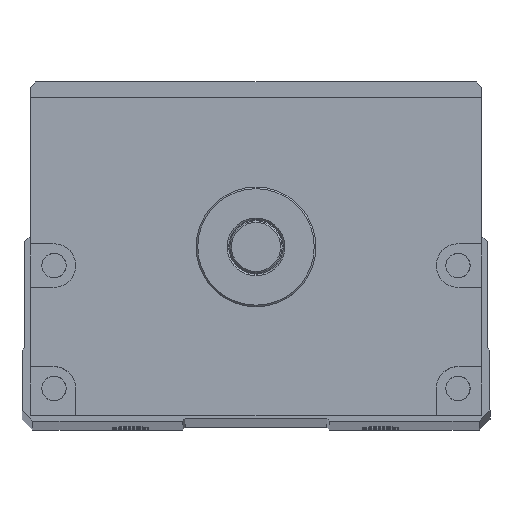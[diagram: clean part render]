
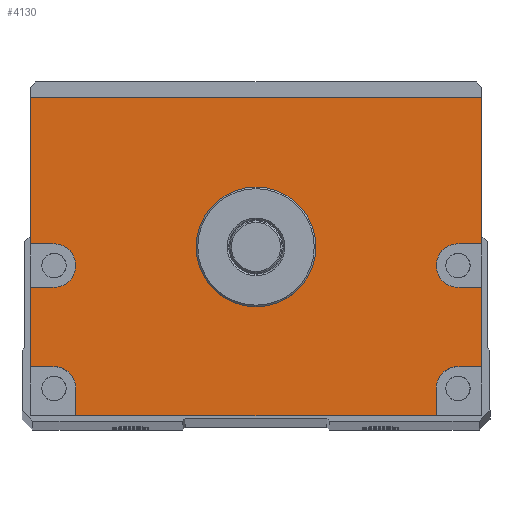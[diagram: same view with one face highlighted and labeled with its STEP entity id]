
A CAD part, top view. The second image highlights one B-rep face of the part: STEP entity #4130.
In plain terms, the highlighted planar face has unit normal (0, 0, 1).
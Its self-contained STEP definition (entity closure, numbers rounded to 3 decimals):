
#4130=ADVANCED_FACE('',(#6543,#6544),#4676,.T.);
#4676=PLANE('',#14293);
#5093=LINE('',#27644,#5818);
#5095=LINE('',#27652,#5820);
#5096=LINE('',#27655,#5821);
#5097=LINE('',#27657,#5822);
#5098=LINE('',#27661,#5823);
#5099=LINE('',#27663,#5824);
#5100=LINE('',#27664,#5825);
#5101=LINE('',#27666,#5826);
#5102=LINE('',#27670,#5827);
#5103=LINE('',#27672,#5828);
#5104=LINE('',#27674,#5829);
#5105=LINE('',#27678,#5830);
#5106=LINE('',#27680,#5831);
#5107=LINE('',#27682,#5832);
#5818=VECTOR('',#15909,1.);
#5820=VECTOR('',#15917,1.);
#5821=VECTOR('',#15918,1.);
#5822=VECTOR('',#15919,1.);
#5823=VECTOR('',#15922,1.);
#5824=VECTOR('',#15923,1.);
#5825=VECTOR('',#15924,1.);
#5826=VECTOR('',#15925,1.);
#5827=VECTOR('',#15928,1.);
#5828=VECTOR('',#15929,1.);
#5829=VECTOR('',#15930,1.);
#5830=VECTOR('',#15933,1.);
#5831=VECTOR('',#15934,1.);
#5832=VECTOR('',#15935,1.);
#6543=FACE_BOUND('',#7212,.T.);
#6544=FACE_BOUND('',#7213,.T.);
#7212=EDGE_LOOP('',(#8798,#8799,#8800,#8801,#8802,#8803,#8804,#8805,#8806,
#8807,#8808,#8809,#8810,#8811,#8812,#8813,#8814,#8815));
#7213=EDGE_LOOP('',(#8816));
#8798=ORIENTED_EDGE('',*,*,#12449,.F.);
#8799=ORIENTED_EDGE('',*,*,#12450,.T.);
#8800=ORIENTED_EDGE('',*,*,#12451,.F.);
#8801=ORIENTED_EDGE('',*,*,#12452,.F.);
#8802=ORIENTED_EDGE('',*,*,#12453,.F.);
#8803=ORIENTED_EDGE('',*,*,#12454,.T.);
#8804=ORIENTED_EDGE('',*,*,#12445,.T.);
#8805=ORIENTED_EDGE('',*,*,#12455,.T.);
#8806=ORIENTED_EDGE('',*,*,#12456,.F.);
#8807=ORIENTED_EDGE('',*,*,#12457,.F.);
#8808=ORIENTED_EDGE('',*,*,#12458,.F.);
#8809=ORIENTED_EDGE('',*,*,#12459,.T.);
#8810=ORIENTED_EDGE('',*,*,#12460,.F.);
#8811=ORIENTED_EDGE('',*,*,#12461,.F.);
#8812=ORIENTED_EDGE('',*,*,#12462,.F.);
#8813=ORIENTED_EDGE('',*,*,#12463,.T.);
#8814=ORIENTED_EDGE('',*,*,#12464,.F.);
#8815=ORIENTED_EDGE('',*,*,#12465,.F.);
#8816=ORIENTED_EDGE('',*,*,#12431,.T.);
#11215=VERTEX_POINT('',#27615);
#11228=VERTEX_POINT('',#27643);
#11229=VERTEX_POINT('',#27645);
#11232=VERTEX_POINT('',#27653);
#11233=VERTEX_POINT('',#27654);
#11234=VERTEX_POINT('',#27656);
#11235=VERTEX_POINT('',#27658);
#11236=VERTEX_POINT('',#27660);
#11237=VERTEX_POINT('',#27662);
#11238=VERTEX_POINT('',#27665);
#11239=VERTEX_POINT('',#27667);
#11240=VERTEX_POINT('',#27669);
#11241=VERTEX_POINT('',#27671);
#11242=VERTEX_POINT('',#27673);
#11243=VERTEX_POINT('',#27675);
#11244=VERTEX_POINT('',#27677);
#11245=VERTEX_POINT('',#27679);
#11246=VERTEX_POINT('',#27681);
#11247=VERTEX_POINT('',#27683);
#12431=EDGE_CURVE('',#11215,#11215,#13630,.T.);
#12445=EDGE_CURVE('',#11229,#11228,#5093,.T.);
#12449=EDGE_CURVE('',#11232,#11233,#5095,.T.);
#12450=EDGE_CURVE('',#11232,#11234,#5096,.T.);
#12451=EDGE_CURVE('',#11235,#11234,#5097,.T.);
#12452=EDGE_CURVE('',#11236,#11235,#13641,.T.);
#12453=EDGE_CURVE('',#11237,#11236,#5098,.T.);
#12454=EDGE_CURVE('',#11237,#11229,#5099,.T.);
#12455=EDGE_CURVE('',#11228,#11238,#5100,.T.);
#12456=EDGE_CURVE('',#11239,#11238,#5101,.T.);
#12457=EDGE_CURVE('',#11240,#11239,#13642,.T.);
#12458=EDGE_CURVE('',#11241,#11240,#5102,.T.);
#12459=EDGE_CURVE('',#11241,#11242,#5103,.T.);
#12460=EDGE_CURVE('',#11243,#11242,#5104,.T.);
#12461=EDGE_CURVE('',#11244,#11243,#13643,.T.);
#12462=EDGE_CURVE('',#11245,#11244,#5105,.T.);
#12463=EDGE_CURVE('',#11245,#11246,#5106,.T.);
#12464=EDGE_CURVE('',#11247,#11246,#5107,.T.);
#12465=EDGE_CURVE('',#11233,#11247,#13644,.T.);
#13630=CIRCLE('',#14275,11.);
#13641=CIRCLE('',#14289,4.);
#13642=CIRCLE('',#14290,4.);
#13643=CIRCLE('',#14291,4.);
#13644=CIRCLE('',#14292,4.);
#14275=AXIS2_PLACEMENT_3D('',#27614,#15882,#15883);
#14289=AXIS2_PLACEMENT_3D('',#27659,#15920,#15921);
#14290=AXIS2_PLACEMENT_3D('',#27668,#15926,#15927);
#14291=AXIS2_PLACEMENT_3D('',#27676,#15931,#15932);
#14292=AXIS2_PLACEMENT_3D('',#27684,#15936,#15937);
#14293=AXIS2_PLACEMENT_3D('',#27685,#15938,#15939);
#15882=DIRECTION('',(0.,0.,-1.));
#15883=DIRECTION('',(1.,0.,0.));
#15909=DIRECTION('',(-1.,0.,0.));
#15917=DIRECTION('',(-1.,0.,0.));
#15918=DIRECTION('',(0.,1.,0.));
#15919=DIRECTION('',(1.,0.,0.));
#15920=DIRECTION('',(0.,0.,1.));
#15921=DIRECTION('',(1.,0.,0.));
#15922=DIRECTION('',(-1.,0.,0.));
#15923=DIRECTION('',(0.,1.,0.));
#15924=DIRECTION('',(0.,-1.,0.));
#15925=DIRECTION('',(-1.,0.,0.));
#15926=DIRECTION('',(0.,0.,1.));
#15927=DIRECTION('',(1.,0.,0.));
#15928=DIRECTION('',(1.,0.,0.));
#15929=DIRECTION('',(0.,-1.,0.));
#15930=DIRECTION('',(-1.,0.,0.));
#15931=DIRECTION('',(0.,0.,1.));
#15932=DIRECTION('',(1.,0.,0.));
#15933=DIRECTION('',(0.,1.,0.));
#15934=DIRECTION('',(1.,0.,0.));
#15935=DIRECTION('',(0.,-1.,0.));
#15936=DIRECTION('',(0.,0.,1.));
#15937=DIRECTION('',(1.,0.,0.));
#15938=DIRECTION('',(0.,0.,1.));
#15939=DIRECTION('',(1.,0.,0.));
#27614=CARTESIAN_POINT('',(0.,0.,782.5));
#27615=CARTESIAN_POINT('',(11.,0.,782.5));
#27643=CARTESIAN_POINT('',(-41.5,27.5,782.5));
#27644=CARTESIAN_POINT('',(41.5,27.5,782.5));
#27645=CARTESIAN_POINT('',(41.5,27.5,782.5));
#27652=CARTESIAN_POINT('',(41.5,-22.,782.5));
#27653=CARTESIAN_POINT('',(41.5,-22.,782.5));
#27654=CARTESIAN_POINT('',(37.115,-22.,782.5));
#27655=CARTESIAN_POINT('',(41.5,-31.,782.5));
#27656=CARTESIAN_POINT('',(41.5,-7.431,782.5));
#27657=CARTESIAN_POINT('',(41.5,-7.431,782.5));
#27658=CARTESIAN_POINT('',(37.115,-7.431,782.5));
#27659=CARTESIAN_POINT('',(37.115,-3.431,782.5));
#27660=CARTESIAN_POINT('',(37.115,0.569,782.5));
#27661=CARTESIAN_POINT('',(41.5,0.569,782.5));
#27662=CARTESIAN_POINT('',(41.5,0.569,782.5));
#27663=CARTESIAN_POINT('',(41.5,-31.,782.5));
#27664=CARTESIAN_POINT('',(-41.5,27.5,782.5));
#27665=CARTESIAN_POINT('',(-41.5,0.569,782.5));
#27666=CARTESIAN_POINT('',(41.5,0.569,782.5));
#27667=CARTESIAN_POINT('',(-37.115,0.569,782.5));
#27668=CARTESIAN_POINT('',(-37.115,-3.431,782.5));
#27669=CARTESIAN_POINT('',(-37.115,-7.431,782.5));
#27670=CARTESIAN_POINT('',(41.5,-7.431,782.5));
#27671=CARTESIAN_POINT('',(-41.5,-7.431,782.5));
#27672=CARTESIAN_POINT('',(-41.5,27.5,782.5));
#27673=CARTESIAN_POINT('',(-41.5,-22.,782.5));
#27674=CARTESIAN_POINT('',(41.5,-22.,782.5));
#27675=CARTESIAN_POINT('',(-37.115,-22.,782.5));
#27676=CARTESIAN_POINT('',(-37.115,-26.,782.5));
#27677=CARTESIAN_POINT('',(-33.115,-26.,782.5));
#27678=CARTESIAN_POINT('',(-33.115,-31.,782.5));
#27679=CARTESIAN_POINT('',(-33.115,-31.,782.5));
#27680=CARTESIAN_POINT('',(-41.5,-31.,782.5));
#27681=CARTESIAN_POINT('',(33.115,-31.,782.5));
#27682=CARTESIAN_POINT('',(33.115,-31.,782.5));
#27683=CARTESIAN_POINT('',(33.115,-26.,782.5));
#27684=CARTESIAN_POINT('',(37.115,-26.,782.5));
#27685=CARTESIAN_POINT('',(41.5,-31.,782.5));
